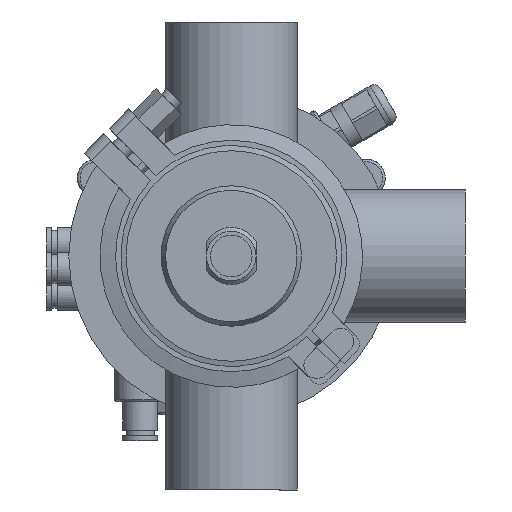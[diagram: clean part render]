
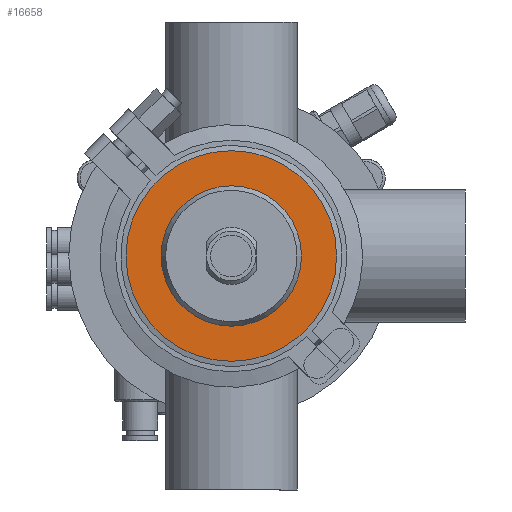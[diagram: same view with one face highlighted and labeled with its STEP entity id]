
A CAD part, front view. The second image highlights one B-rep face of the part: STEP entity #16658.
In plain terms, the highlighted planar face has unit normal (0, -1, 0).
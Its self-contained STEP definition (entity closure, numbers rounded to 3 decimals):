
#2016 = DIRECTION ( 'NONE',  ( 0., 1., 0. ) ) ;
#3798 = CIRCLE ( 'NONE', #27093, 40.5 ) ;
#7167 = EDGE_LOOP ( 'NONE', ( #60316 ) ) ;
#10722 = ORIENTED_EDGE ( 'NONE', *, *, #47526, .F. ) ;
#11538 = CARTESIAN_POINT ( 'NONE',  ( 0., -13., 0. ) ) ;
#12165 = AXIS2_PLACEMENT_3D ( 'NONE', #11538, #2016, #21359 ) ;
#16221 = CARTESIAN_POINT ( 'NONE',  ( 0., -13., 0. ) ) ;
#16658 = ADVANCED_FACE ( 'NONE', ( #25315, #48399 ), #38904, .T. ) ;
#21359 = DIRECTION ( 'NONE',  ( 0., 0., 1. ) ) ;
#23359 = VERTEX_POINT ( 'NONE', #27795 ) ;
#25315 = FACE_BOUND ( 'NONE', #7167, .T. ) ;
#26355 = VERTEX_POINT ( 'NONE', #31700 ) ;
#27093 = AXIS2_PLACEMENT_3D ( 'NONE', #16221, #31096, #39934 ) ;
#27795 = CARTESIAN_POINT ( 'NONE',  ( 0., -13., 40.5 ) ) ;
#29754 = DIRECTION ( 'NONE',  ( 0., 0., -1. ) ) ;
#30201 = EDGE_CURVE ( 'NONE', #26355, #26355, #39404, .T. ) ;
#31096 = DIRECTION ( 'NONE',  ( 0., 1., 0. ) ) ;
#31700 = CARTESIAN_POINT ( 'NONE',  ( 0., -13., 27. ) ) ;
#37354 = AXIS2_PLACEMENT_3D ( 'NONE', #58191, #53448, #29754 ) ;
#38904 = PLANE ( 'NONE',  #37354 ) ;
#39404 = CIRCLE ( 'NONE', #12165, 27. ) ;
#39934 = DIRECTION ( 'NONE',  ( 0., 0., 1. ) ) ;
#47526 = EDGE_CURVE ( 'NONE', #23359, #23359, #3798, .T. ) ;
#48399 = FACE_OUTER_BOUND ( 'NONE', #54742, .T. ) ;
#53448 = DIRECTION ( 'NONE',  ( 0., -1., 0. ) ) ;
#54742 = EDGE_LOOP ( 'NONE', ( #10722 ) ) ;
#58191 = CARTESIAN_POINT ( 'NONE',  ( -40.5, -13., 0. ) ) ;
#60316 = ORIENTED_EDGE ( 'NONE', *, *, #30201, .T. ) ;
